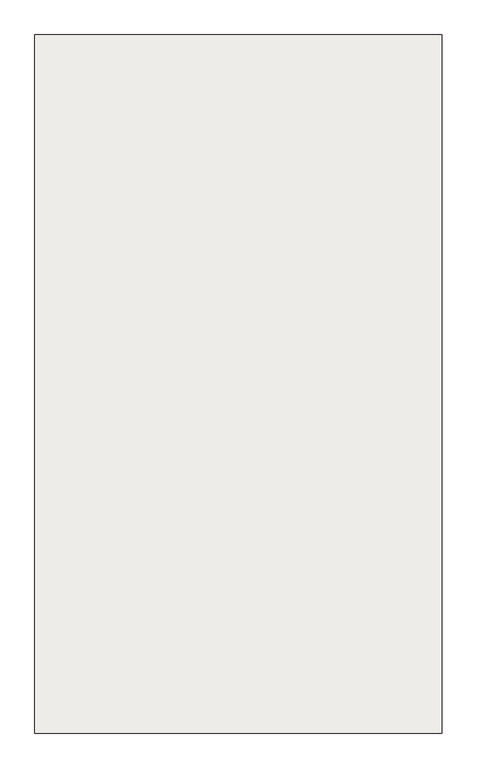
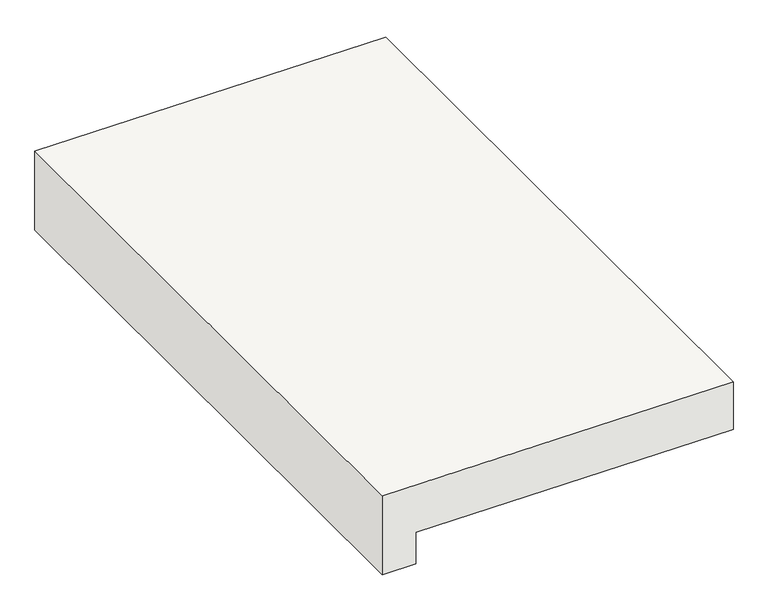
"""IFC4 building model written with IfcOpenShell, lengths in millimetres: slab geometry, Radier Amont : Radier Amont."""

from ifc_helpers import new_model, si_unit, frame, origin, place, context, project, spatial, polyline, outline, extrude, source, transform, mapped, element, save


def slab_09aafc54(model_context):
    return source(origin(), model_context, "Body", "SweptSolid", [
        extrude(outline(polyline([(153974.3792801, -20820.0), (153474.3792801, -20820.0), (153474.3792801, -20620.0), (153672.834065, -20620.0), (153658.1545215, -18720.0), (153958.1545215, -18720.0), (153974.3792801, -20820.0)])), frame((0.0, -1800.0, 0.0), z_axis=(0.0, 1.0, 0.0), x_axis=(0.0, 0.0, 1.0)), (0.0, 0.0, 1.0), 3600.0),
    ])


if __name__ == "__main__":
    model = new_model("IFC4")
    model_context = context("Model", 3, world=origin())
    ifc_project = project(units=[si_unit("LENGTHUNIT", "METRE", prefix="MILLI")], contexts=[model_context])
    site = spatial("IfcSite", under=ifc_project)
    building = spatial("IfcBuilding", under=site)
    placement = place(None, origin())
    slab_shape = slab_09aafc54(model_context)
    element("IfcSlab", 1, ObjectType="Radier Amont : Radier Amont", at=placement, inside=building, context=model_context, shape_type="MappedRepresentation", body=[
        mapped(slab_shape, transform((0.0, 0.0, 0.0), x_axis=(1.0, 0.0, 0.0), y_axis=(0.0, 1.0, 0.0), z_axis=(0.0, 0.0, 1.0))),
    ])
    save(model, "model.ifc")
